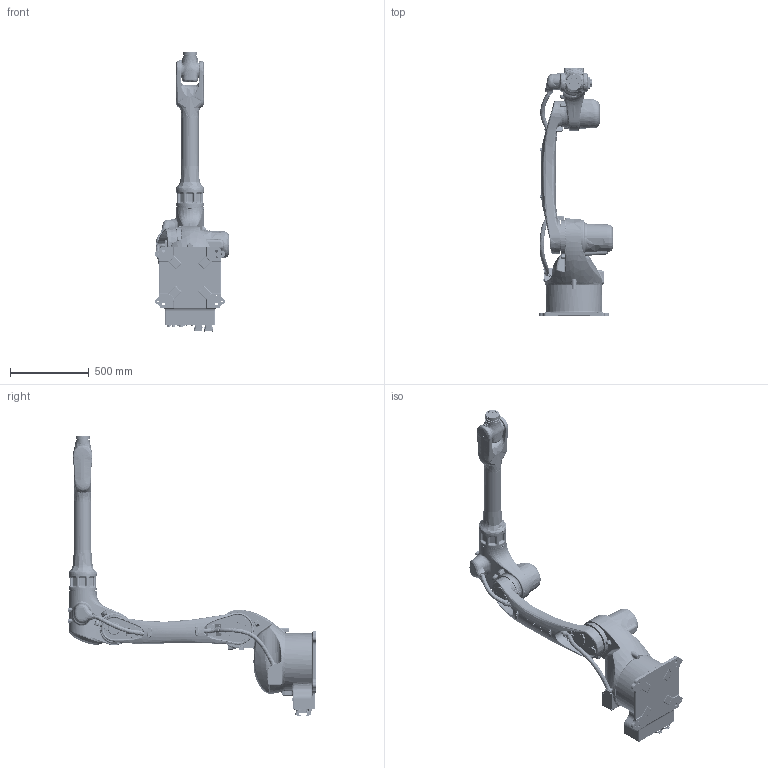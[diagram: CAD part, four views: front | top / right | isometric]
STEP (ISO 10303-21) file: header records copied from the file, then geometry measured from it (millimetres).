
FILE_DESCRIPTION (( 'STEP AP214' ), '1' );
FILE_NAME ('CRP-RA21-10 六轴机器人-简化模型 2022.6.23.STEP', '2022-12-08T08:06:58', ( '' ), ( '' ), 'SwSTEP 2.0', 'SolidWorks 2021', '' );
FILE_SCHEMA (( 'AUTOMOTIVE_DESIGN' ));
Length unit declared in the file: millimetre
Products named in the file (9): RA20A0006 勂窒-潠趙 2022.1.3; RA20A0002 殈窒-潠趙 2022.1.3; RA20A0001 菁釱-潠趙 2022.1.3; RA20A0004 紵窒-潠趙 2022.1.3; CRP-RA21-10 六轴机器人-简化模型 2022.6.23; RA21A0008 奪盄婦; RA20A0003 湮旋-潠趙 2022.1.3; RA21A0005 苤旋-潠趙 2022.1.3; RA20A0007 勂窒楊擘-潠趙 2022.1.3
Assembly tree (8 placements, depth 2):
  CRP-RA21-10 六轴机器人-简化模型 2022.6.23
    RA20A0001 菁釱-潠趙 2022.1.3
    RA20A0002 殈窒-潠趙 2022.1.3
    RA20A0003 湮旋-潠趙 2022.1.3
    RA20A0004 紵窒-潠趙 2022.1.3
    RA21A0005 苤旋-潠趙 2022.1.3
    RA20A0006 勂窒-潠趙 2022.1.3
    RA20A0007 勂窒楊擘-潠趙 2022.1.3
    RA21A0008 奪盄婦
Bounding box: 470.48 x 1579.4 x 1781.47 mm (x, y, z)
Volume: 98932612.9 mm3; surface area: 3505871.2 mm2
Topology: 10 solids, 73 shells, 6744 faces, 16435 edges, 9818 vertices
Faces by surface type: bspline 2223, cylinder 1988, plane 1646, torus 499, cone 285, sphere 103
Entity records: 695397 total; most frequent: CARTESIAN_POINT 538453, ORIENTED_EDGE 32160, DIRECTION 25583, EDGE_CURVE 16080, AXIS2_PLACEMENT_3D 10275, VERTEX_POINT 9796, EDGE_LOOP 7204, ADVANCED_FACE 6743
